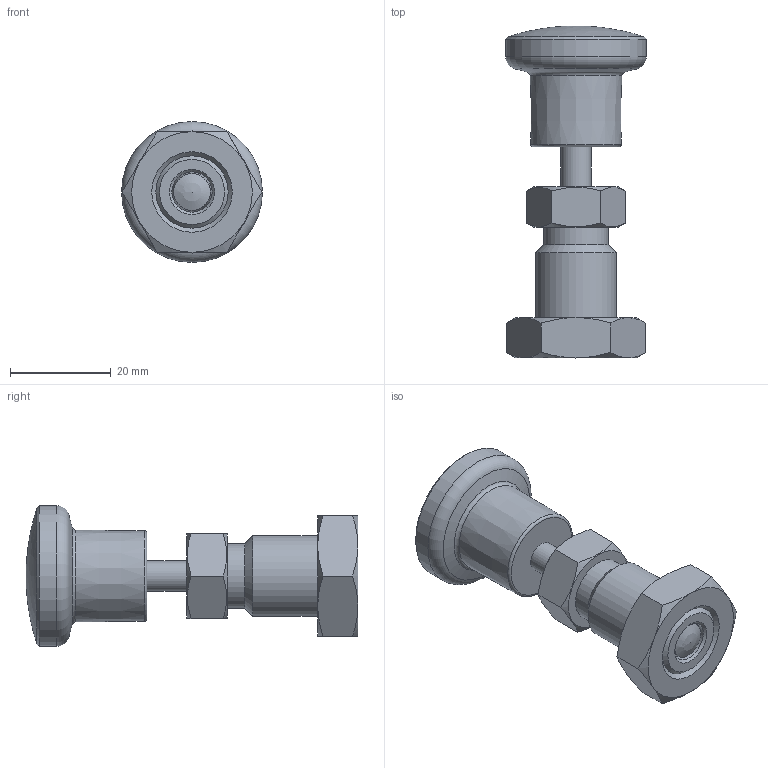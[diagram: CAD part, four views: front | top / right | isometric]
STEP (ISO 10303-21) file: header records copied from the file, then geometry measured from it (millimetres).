
FILE_DESCRIPTION( ( 'STEP AP203' ), '1' );
FILE_NAME( 'C:/Temp/Ganter_Step_05_03_2020/data/3_1/gn817/gn817_ni-rastbolzen_rot/Stainless Steel-Indexing plunger GN 817-8-8-BK-NI-RT (activated-0).stp', '2020-03-12T09:00:32', ( 'License CC BY-ND 4.0' ), ( 'CADENAS' ), ' ', 'PARTsolutions', ' ' );
FILE_SCHEMA( ( 'CONFIG_CONTROL_DESIGN' ) );
Length unit declared in the file: millimetre
Products named in the file (5): Stainless Steel-Indexing plunger GN 817-8-8-BK-NI-RT (activated-0); _Stainless steel-Indexing plunger GN 817-8-8-BK-NI-RT (activated-0)-d; _Stainless steel-Indexing plunger GN 817-8-8-B-NI-RT-2; _Stainless Steel Indexing plunger GN 817-8-8-B-NI-RT-1; _Stainless steel-Indexing plunger GN 817-8-8-BK-NI-RT (deactivated-0)-3
Assembly tree (4 placements, depth 2):
  Stainless Steel-Indexing plunger GN 817-8-8-BK-NI-RT (activated-0)
    _Stainless steel-Indexing plunger GN 817-8-8-BK-NI-RT (activated-0)-d
    _Stainless steel-Indexing plunger GN 817-8-8-B-NI-RT-2
    _Stainless Steel Indexing plunger GN 817-8-8-B-NI-RT-1
    _Stainless steel-Indexing plunger GN 817-8-8-BK-NI-RT (deactivated-0)-3
Bounding box: 28 x 66 x 28 mm (x, y, z)
Volume: 18184.8 mm3; surface area: 8129 mm2
Topology: 3 solids, 3 shells, 59 faces, 122 edges, 72 vertices
Faces by surface type: cone 24, plane 20, cylinder 8, torus 5, bspline 1, sphere 1
Full cylindrical faces by diameter (mm): 6 x2, 8 x2, 12.8 x1, 14.376 x1, 16 x1, 28 x1
Entity records: 1775 total; most frequent: CARTESIAN_POINT 522, DIRECTION 226, ORIENTED_EDGE 184, AXIS2_PLACEMENT_3D 107, EDGE_LOOP 92, EDGE_CURVE 92, FACE_OUTER_BOUND 72, VERTEX_POINT 70
